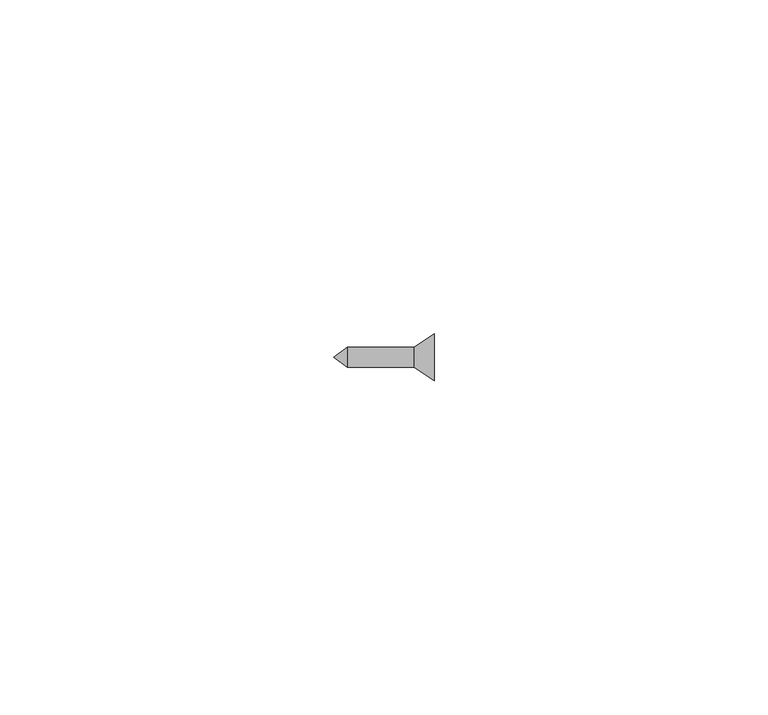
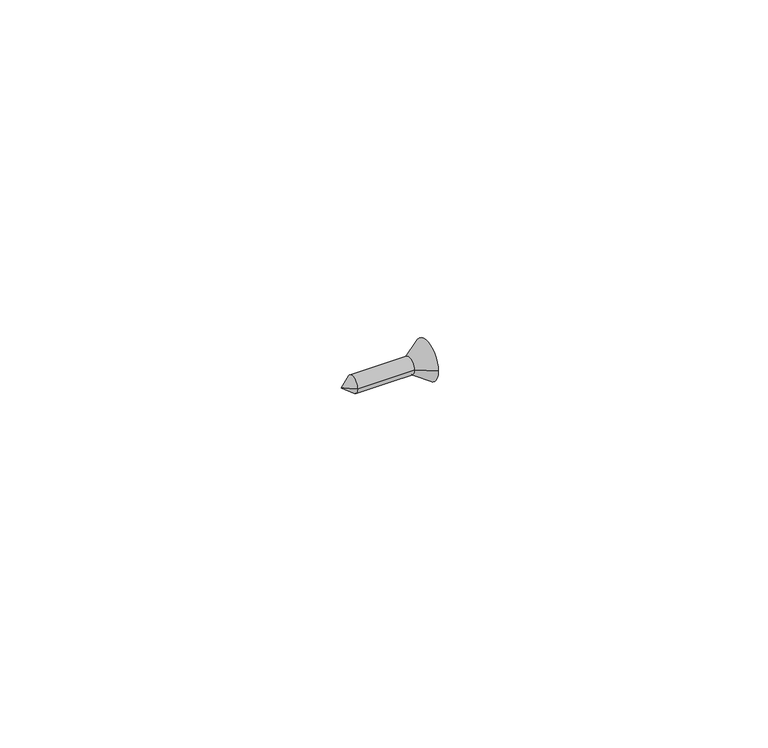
"""IFC4 building model written with IfcOpenShell, lengths in millimetres: furniture geometry, Parafuso de Madeira 12mm x 3mm : Parafuso de Madeira 12mm x 3mm."""

from ifc_helpers import new_model, si_unit, frame, origin, place, context, project, spatial, polyline, circle_curve, source, transform, mapped, element, save
from ifc_brep_helpers import plane_surface, cylinder_surface, revolved_surface, advanced_brep


def furniture_8cdb3bce(model_context):
    return source(origin(), model_context, "Body", "AdvancedBrep", [
        advanced_brep(
        [(0.0, 0.0, 0.0), (2.0, 1.5, 0.0), (2.0, -1.5, 0.0), (15.0, -3.5, 0.0), (15.0, 3.5, 0.0), (15.0, 1.3552589, 0.0), (15.0, 1.3552589, -0.55), (15.0, 0.5565018, -0.55), (15.0, 0.5583048, -1.3487558), (15.0, -0.5416924, -1.3512388), (15.0, -0.543501, -0.55), (15.0, -1.3447411, -0.55), (15.0, -1.3447411, 0.0), (15.0, -1.3447411, 0.55), (15.0, -0.5459841, 0.55), (15.0, -0.5477871, 1.3487558), (15.0, 0.5522101, 1.3512388), (15.0, 0.5540187, 0.55), (15.0, 1.3552589, 0.55), (12.0, -1.5, 0.0), (12.0, 1.5, 0.0), (13.0, -0.5459841, 0.55), (13.0, -1.3447411, 0.55), (13.0, -1.3447411, -0.55), (13.0, -0.543501, -0.55), (13.0, -0.5416924, -1.3512388), (13.0, 0.5583048, -1.3487558), (13.0, 0.5565018, -0.55), (13.0, 1.3552589, -0.55), (13.0, 1.3552589, 0.55), (13.0, 0.5540187, 0.55), (13.0, 0.5522101, 1.3512388), (13.0, -0.5477871, 1.3487558)],
        [
            (0, 1),
            (1, 2, circle_curve(frame((2.0, 0.0, 0.0), z_axis=(-1.0, 0.0, 0.0), x_axis=(0.0, 1.0, 0.0)), 1.5)),
            (2, 0),
            (2, 1, circle_curve(frame((2.0, 0.0, 0.0), z_axis=(-1.0, 0.0, 0.0), x_axis=(0.0, 1.0, 0.0)), 1.5)),
            (3, 4, circle_curve(frame((15.0, 0.0, 0.0), z_axis=(1.0, 0.0, 0.0), x_axis=(0.0, 1.0, 0.0)), 3.5)),
            (4, 5),
            (5, 6),
            (6, 7),
            (7, 8),
            (8, 9),
            (9, 10),
            (10, 11),
            (11, 12),
            (12, 3),
            (4, 3, circle_curve(frame((15.0, 0.0, 0.0), z_axis=(1.0, 0.0, 0.0), x_axis=(0.0, 1.0, 0.0)), 3.5)),
            (12, 13),
            (13, 14),
            (14, 15),
            (15, 16),
            (16, 17),
            (17, 18),
            (18, 5),
            (3, 19),
            (19, 20, circle_curve(frame((12.0, 0.0, 0.0), z_axis=(1.0, 0.0, 0.0), x_axis=(0.0, 1.0, 0.0)), 1.5)),
            (20, 4),
            (20, 19, circle_curve(frame((12.0, 0.0, 0.0), z_axis=(1.0, 0.0, 0.0), x_axis=(0.0, 1.0, 0.0)), 1.5)),
            (21, 22),
            (22, 23),
            (23, 24),
            (24, 25),
            (25, 26),
            (26, 27),
            (27, 28),
            (28, 29),
            (29, 30),
            (30, 31),
            (31, 32),
            (32, 21),
            (32, 15),
            (14, 21),
            (31, 16),
            (30, 17),
            (29, 18),
            (28, 6),
            (27, 7),
            (26, 8),
            (25, 9),
            (24, 10),
            (23, 11),
            (22, 13),
            (1, 20),
            (19, 2),
        ],
        [
            revolved_surface(polyline([(2.0, 1.5, 0.0), (0.0, 0.0, 0.0)]), (0.0, 0.0, 0.0), (-1.0, 0.0, 0.0)),
            plane_surface(frame((15.0, 0.0, 0.0), z_axis=(1.0, 0.0, 0.0), x_axis=(0.0, 1.0, 0.0))),
            revolved_surface(polyline([(15.0, 3.5, 0.0), (12.0, 1.5, 0.0)]), (0.0, 0.0, 0.0), (-1.0, 0.0, 0.0)),
            plane_surface(frame((13.0, -0.5410152, -1.6512373), z_axis=(1.0, 0.0, 0.0), x_axis=(0.0, -0.002257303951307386, 0.9999974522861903))),
            plane_surface(frame((13.0, -0.5459841, 0.55), z_axis=(0.0, 0.9999974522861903, 0.002257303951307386), x_axis=(1.0, 0.0, 0.0))),
            plane_surface(frame((13.0, -0.5477871, 1.3487558), z_axis=(0.0, 0.0022573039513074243, -0.9999974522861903), x_axis=(1.0, 0.0, 0.0))),
            plane_surface(frame((13.0, 0.5522101, 1.3512388), z_axis=(0.0, -0.9999974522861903, -0.002257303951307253), x_axis=(1.0, 0.0, 0.0))),
            plane_surface(frame((13.0, 0.5540187, 0.55), z_axis=(0.0, 0.0, -1.0), x_axis=(1.0, 0.0, 0.0))),
            plane_surface(frame((13.0, 1.3552589, 0.55), z_axis=(0.0, -1.0, 0.0), x_axis=(1.0, 0.0, 0.0))),
            plane_surface(frame((13.0, 1.3552589, -0.55), z_axis=(0.0, 0.0, 1.0), x_axis=(1.0, 0.0, 0.0))),
            plane_surface(frame((13.0, 0.5565018, -0.55), z_axis=(0.0, -0.9999974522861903, -0.002257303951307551), x_axis=(1.0, 0.0, 0.0))),
            plane_surface(frame((13.0, 0.5583048, -1.3487558), z_axis=(0.0, -0.0022573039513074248, 0.9999974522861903), x_axis=(1.0, 0.0, 0.0))),
            plane_surface(frame((13.0, -0.5416924, -1.3512388), z_axis=(0.0, 0.9999974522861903, 0.0022573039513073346), x_axis=(1.0, 0.0, 0.0))),
            plane_surface(frame((13.0, -0.543501, -0.55), z_axis=(0.0, 0.0, 1.0), x_axis=(1.0, 0.0, 0.0))),
            plane_surface(frame((13.0, -1.3447411, -0.55), z_axis=(0.0, 1.0, 0.0), x_axis=(1.0, 0.0, 0.0))),
            plane_surface(frame((13.0, -1.3447411, 0.55), z_axis=(0.0, 0.0, -1.0), x_axis=(1.0, 0.0, 0.0))),
            cylinder_surface(frame((0.0, 0.0, 0.0), z_axis=(-1.0, 0.0, 0.0), x_axis=(0.0, 1.0, 0.0)), 1.5),
        ],
        [
            (0, [[1, 2, 3]]),
            (0, [[-1, -3, 4]]),
            (1, [[5, 6, 7, 8, 9, 10, 11, 12, 13, 14]]),
            (1, [[15, -14, 16, 17, 18, 19, 20, 21, 22, -6]]),
            (2, [[-5, 23, 24, 25]]),
            (2, [[-15, -25, 26, -23]]),
            (3, [[27, 28, 29, 30, 31, 32, 33, 34, 35, 36, 37, 38]]),
            (4, [[-38, 39, -18, 40]]),
            (5, [[-37, 41, -19, -39]]),
            (6, [[-36, 42, -20, -41]]),
            (7, [[-35, 43, -21, -42]]),
            (8, [[-34, 44, -7, -22, -43]]),
            (9, [[-33, 45, -8, -44]]),
            (10, [[-32, 46, -9, -45]]),
            (11, [[-31, 47, -10, -46]]),
            (12, [[-30, 48, -11, -47]]),
            (13, [[-29, 49, -12, -48]]),
            (14, [[-28, 50, -16, -13, -49]]),
            (15, [[-27, -40, -17, -50]]),
            (16, [[-2, 51, -24, 52]]),
            (16, [[-4, -52, -26, -51]]),
        ],
    ),
    ])


if __name__ == "__main__":
    model = new_model("IFC4")
    model_context = context("Model", 3, world=origin())
    ifc_project = project(units=[si_unit("LENGTHUNIT", "METRE", prefix="MILLI")], contexts=[model_context])
    site = spatial("IfcSite", under=ifc_project)
    building = spatial("IfcBuilding", under=site)
    placement = place(None, origin())
    furniture_shape = furniture_8cdb3bce(model_context)
    element("IfcFurniture", 1, ObjectType="Parafuso de Madeira 12mm x 3mm : Parafuso de Madeira 12mm x 3mm", at=placement, inside=building, context=model_context, shape_type="MappedRepresentation", body=[
        mapped(furniture_shape, transform((0.0, 0.0, 0.0), x_axis=(1.0, 0.0, 0.0), y_axis=(0.0, 1.0, 0.0), z_axis=(0.0, 0.0, 1.0))),
    ])
    save(model, "model.ifc")
